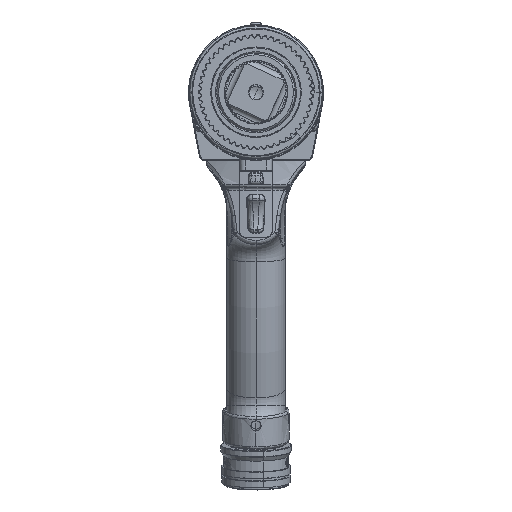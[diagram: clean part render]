
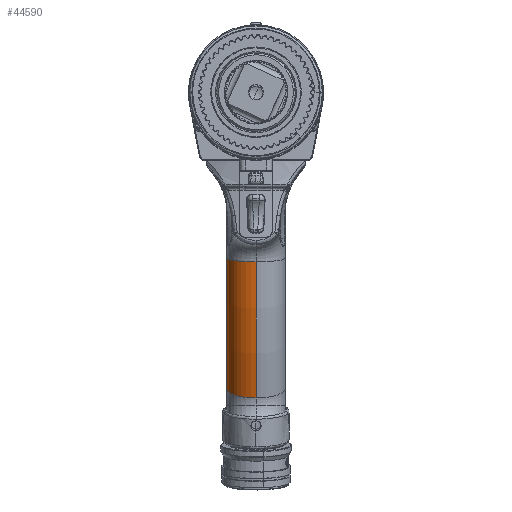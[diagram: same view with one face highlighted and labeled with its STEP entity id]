
A CAD part, top view. The second image highlights one B-rep face of the part: STEP entity #44590.
In plain terms, the highlighted toroidal (fillet/blend) face has major radius 363.555 mm and minor radius 16.662 mm.
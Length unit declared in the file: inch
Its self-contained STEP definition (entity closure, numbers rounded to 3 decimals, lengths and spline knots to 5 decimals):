
#9402 = CARTESIAN_POINT ( 'NONE',  ( 0., -3.74333, -1.39704 ) ) ;
#10705 = CARTESIAN_POINT ( 'NONE',  ( -0.656, -2.019, -15.606 ) ) ;
#13915 = VERTEX_POINT ( 'NONE', #130187 ) ;
#14051 = AXIS2_PLACEMENT_3D ( 'NONE', #9402, #85403, #20408 ) ;
#14154 = DIRECTION ( 'NONE',  ( 0., 0., -1. ) ) ;
#19466 = EDGE_CURVE ( 'NONE', #82058, #13915, #135108, .T. ) ;
#20408 = DIRECTION ( 'NONE',  ( 0., -0.12, 0.993 ) ) ;
#20773 = CARTESIAN_POINT ( 'NONE',  ( 0., -6.68654, -2.07522 ) ) ;
#21704 = DIRECTION ( 'NONE',  ( 0., 0., -1. ) ) ;
#22944 = AXIS2_PLACEMENT_3D ( 'NONE', #115533, #50626, #126439 ) ;
#30931 = AXIS2_PLACEMENT_3D ( 'NONE', #10705, #86688, #21704 ) ;
#31729 = DIRECTION ( 'NONE',  ( 0., -0.326, 0.945 ) ) ;
#33773 = TOROIDAL_SURFACE ( 'NONE', #36227, 14.31321, 0.656 ) ;
#36227 = AXIS2_PLACEMENT_3D ( 'NONE', #100543, #79206, #14154 ) ;
#44590 = ADVANCED_FACE ( 'NONE', ( #130470 ), #33773, .T. ) ;
#45927 = EDGE_CURVE ( 'NONE', #82058, #71822, #62423, .T. ) ;
#49755 = VERTEX_POINT ( 'NONE', #116117 ) ;
#50626 = DIRECTION ( 'NONE',  ( -1., 0., 0. ) ) ;
#51144 = CARTESIAN_POINT ( 'NONE',  ( 0., -6.90046, -1.45508 ) ) ;
#54697 = ORIENTED_EDGE ( 'NONE', *, *, #61744, .F. ) ;
#61744 = EDGE_CURVE ( 'NONE', #71822, #49755, #109366, .T. ) ;
#62423 = CIRCLE ( 'NONE', #105357, 0.656 ) ;
#71822 = VERTEX_POINT ( 'NONE', #135369 ) ;
#79206 = DIRECTION ( 'NONE',  ( 1., 0., 0. ) ) ;
#81899 = ORIENTED_EDGE ( 'NONE', *, *, #19466, .T. ) ;
#82058 = VERTEX_POINT ( 'NONE', #51144 ) ;
#85403 = DIRECTION ( 'NONE',  ( 0., -0.993, -0.12 ) ) ;
#86688 = DIRECTION ( 'NONE',  ( -1., 0., 0. ) ) ;
#90474 = CIRCLE ( 'NONE', #14051, 0.656 ) ;
#93718 = ORIENTED_EDGE ( 'NONE', *, *, #45927, .F. ) ;
#96644 = DIRECTION ( 'NONE',  ( 0., -0.945, -0.326 ) ) ;
#100543 = CARTESIAN_POINT ( 'NONE',  ( 0., -2.019, -15.606 ) ) ;
#105357 = AXIS2_PLACEMENT_3D ( 'NONE', #20773, #96644, #31729 ) ;
#108749 = EDGE_LOOP ( 'NONE', ( #137810, #54697, #93718, #81899 ) ) ;
#109366 = CIRCLE ( 'NONE', #30931, 14.31321 ) ;
#115533 = CARTESIAN_POINT ( 'NONE',  ( 0., -2.019, -15.606 ) ) ;
#116117 = CARTESIAN_POINT ( 'NONE',  ( -0.656, -3.74333, -1.39704 ) ) ;
#126439 = DIRECTION ( 'NONE',  ( 0., 0., -1. ) ) ;
#130187 = CARTESIAN_POINT ( 'NONE',  ( 0., -3.82235, -0.74582 ) ) ;
#130470 = FACE_OUTER_BOUND ( 'NONE', #108749, .T. ) ;
#135108 = CIRCLE ( 'NONE', #22944, 14.96921 ) ;
#135369 = CARTESIAN_POINT ( 'NONE',  ( -0.656, -6.68654, -2.07522 ) ) ;
#137743 = EDGE_CURVE ( 'NONE', #13915, #49755, #90474, .T. ) ;
#137810 = ORIENTED_EDGE ( 'NONE', *, *, #137743, .T. ) ;
